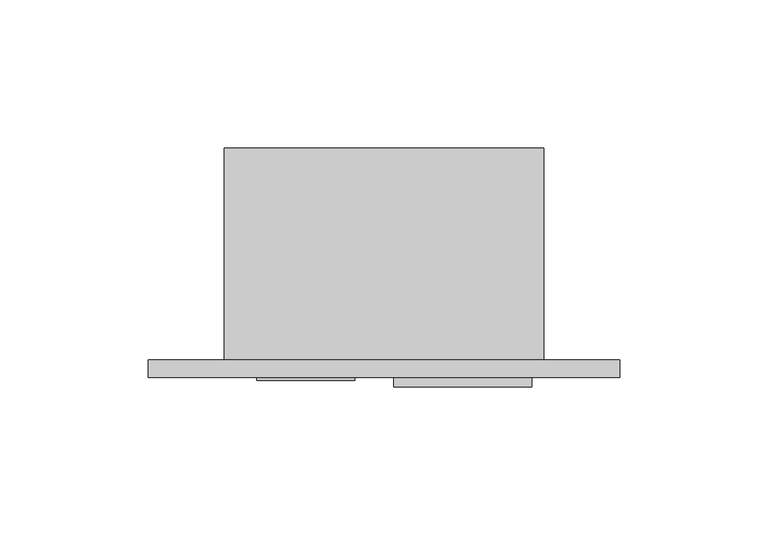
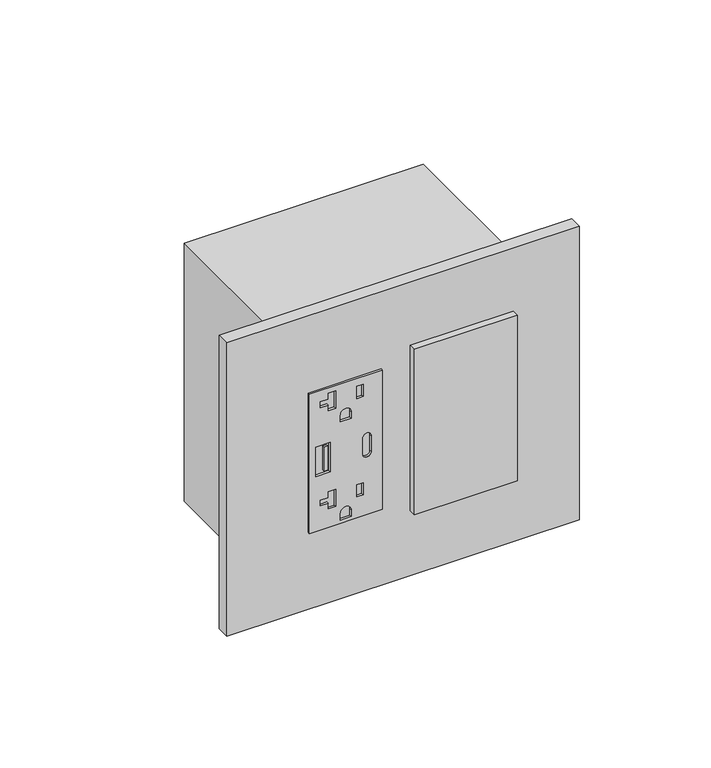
"""IFC4 building model written with IfcOpenShell, lengths in millimetres: proxy geometry, Electrical-Teknion-EPDMD_Vertical_Power_Data_Double-R2019 : PD Vertical Module - Double 20 Amp USB (A+C)."""

import ifcopenshell
import ifcopenshell.guid

model = None  # the IFC model being written
_history = None  # IfcOwnerHistory: only IFC2X3 demands one
_inside = {}  # id of a spatial element -> (the spatial element, [elements in it])
_under = {}  # id of a project, library or spatial element -> (it, [spatial elements below it])
_declared = {}  # id of a project -> (the project, [libraries it declares])
_typed = {}  # id of a type object -> (the type object, [elements of that type])
_made_of = {}  # id of a material, layer set ... -> (it, [elements and type objects made of it])


def new_model(schema):
    """Start an empty IFC model of exactly this schema.

    Asked for "IFC4X3", IfcOpenShell would pick the latest addendum, in which some entities
    have other attributes; the version numbers below select the first issue.
    IFC2X3 requires an IfcOwnerHistory on every rooted entity: one is made here for all.
    """
    global model, _history
    if schema == "IFC4X3":
        model = ifcopenshell.file(schema_version=(4, 3, 0, 0))
    else:
        model = ifcopenshell.file(schema=schema)
    _inside.clear()
    _under.clear()
    _declared.clear()
    _typed.clear()
    _made_of.clear()
    _history = None
    if model.schema == "IFC2X3":
        org = make("IfcOrganization", Name="unknown")
        user = make(
            "IfcPersonAndOrganization",
            ThePerson=make("IfcPerson", FamilyName="unknown"),
            TheOrganization=org,
        )
        app = make(
            "IfcApplication",
            ApplicationDeveloper=org,
            Version="unknown",
            ApplicationFullName="unknown",
            ApplicationIdentifier="unknown",
        )
        _history = make(
            "IfcOwnerHistory",
            OwningUser=user,
            OwningApplication=app,
            ChangeAction="ADDED",
            CreationDate=0,
        )
    return model


def make(cls, **values):
    """One entity of the class cls with the attributes given. An attribute that is None is left unset."""
    return model.create_entity(
        cls, **{name: value for name, value in values.items() if value is not None}
    )


def rooted(cls, **values):
    """An entity with a GlobalId (a new one), such as an element, a storey or a relation."""
    return make(cls, GlobalId=ifcopenshell.guid.new(), OwnerHistory=_history, **values)


def si_unit(unit_type, name, prefix=None):
    """IfcSIUnit, for example si_unit("LENGTHUNIT", "METRE", prefix="MILLI")."""
    return make("IfcSIUnit", UnitType=unit_type, Prefix=prefix, Name=name)


def assignment(units):
    """IfcUnitAssignment: the units of a project."""
    return None if units is None else make("IfcUnitAssignment", Units=units)


def point(xyz):
    """IfcCartesianPoint."""
    return None if xyz is None else make("IfcCartesianPoint", Coordinates=xyz)


def direction(xyz):
    """IfcDirection."""
    return None if xyz is None else make("IfcDirection", DirectionRatios=xyz)


def frame(location, z_axis=None, x_axis=None):
    """IfcAxis2Placement3D, a coordinate frame: its origin and axes. An axis left out is left unset."""
    return make(
        "IfcAxis2Placement3D",
        Location=point(location),
        Axis=direction(z_axis),
        RefDirection=direction(x_axis),
    )


def frame_2d(location, x_axis=None):
    """IfcAxis2Placement2D, a coordinate frame in the plane: its origin and x axis."""
    return make(
        "IfcAxis2Placement2D", Location=point(location), RefDirection=direction(x_axis)
    )


def origin():
    """The frame at (0, 0, 0) with its axes left unset."""
    return frame((0.0, 0.0, 0.0))


def place(relative_to, where):
    """IfcLocalPlacement: puts the frame where relative to a parent placement (None: the world)."""
    return make(
        "IfcLocalPlacement", PlacementRelTo=relative_to, RelativePlacement=where
    )


def context(
    kind, dimensions, precision=None, world=None, true_north=None, identifier=None
):
    """IfcGeometricRepresentationContext, for example the 3D "Model" context."""
    return make(
        "IfcGeometricRepresentationContext",
        ContextIdentifier=identifier,
        ContextType=kind,
        CoordinateSpaceDimension=dimensions,
        Precision=precision,
        WorldCoordinateSystem=world,
        TrueNorth=true_north,
    )


def project(units=None, contexts=None):
    """IfcProject with its units and contexts."""
    return rooted(
        "IfcProject",
        Name="project",
        RepresentationContexts=contexts,
        UnitsInContext=assignment(units),
    )


def spatial(cls, under=None, at=None, **own):
    """A site, building, storey or space (cls), placed at a placement, below another one or the project."""
    s = rooted(cls, ObjectPlacement=at, **own)
    if under is not None:
        _under.setdefault(under.id(), (under, []))[1].append(s)
    return s


def polyline(points):
    """IfcPolyline through the points."""
    return make("IfcPolyline", Points=[point(p) for p in points])


def circle_curve(where, radius):
    """IfcCircle in the frame where."""
    return make("IfcCircle", Position=where, Radius=radius)


def trimmed(basis, trim1, trim2, sense, master):
    """IfcTrimmedCurve: the piece of a basis curve between two trims."""
    return make(
        "IfcTrimmedCurve",
        BasisCurve=basis,
        Trim1=trim1,
        Trim2=trim2,
        SenseAgreement=sense,
        MasterRepresentation=master,
    )


def segment(curve, same_sense, transition):
    """IfcCompositeCurveSegment."""
    return make(
        "IfcCompositeCurveSegment",
        Transition=transition,
        SameSense=same_sense,
        ParentCurve=curve,
    )


def composite_curve(segments, self_intersect=None):
    """IfcCompositeCurve: segments joined end to end."""
    return make("IfcCompositeCurve", Segments=segments, SelfIntersect=self_intersect)


def outline(outer, holes=None, kind="AREA"):
    """IfcArbitraryClosedProfileDef: a profile drawn as a closed curve; with holes, ...WithVoids."""
    if holes is None:
        return make("IfcArbitraryClosedProfileDef", ProfileType=kind, OuterCurve=outer)
    return make(
        "IfcArbitraryProfileDefWithVoids",
        ProfileType=kind,
        OuterCurve=outer,
        InnerCurves=holes,
    )


def extrude(swept, where, along, depth):
    """IfcExtrudedAreaSolid: the profile swept, set in the frame where, extruded along a direction by depth."""
    return make(
        "IfcExtrudedAreaSolid",
        SweptArea=swept,
        Position=where,
        ExtrudedDirection=direction(along),
        Depth=depth,
    )


def shape(context_of_items, identifier, shape_type, items):
    """IfcShapeRepresentation: the items that make up one representation, for example the "Body"."""
    return make(
        "IfcShapeRepresentation",
        ContextOfItems=context_of_items,
        RepresentationIdentifier=identifier,
        RepresentationType=shape_type,
        Items=items,
    )


def source(mapping_origin, context_of_items, identifier, shape_type, items):
    """IfcRepresentationMap: a shape defined once, which mapped items show again and again."""
    return make(
        "IfcRepresentationMap",
        MappingOrigin=mapping_origin,
        MappedRepresentation=shape(context_of_items, identifier, shape_type, items),
    )


def transform(
    local_origin,
    x_axis=None,
    y_axis=None,
    z_axis=None,
    scale=None,
    scale2=None,
    scale3=None,
    uniform=True,
):
    """IfcCartesianTransformationOperator3D, or its non-uniform kind. x_axis, y_axis, z_axis: its Axis1, 2, 3."""
    if uniform:
        return make(
            "IfcCartesianTransformationOperator3D",
            Axis1=direction(x_axis),
            Axis2=direction(y_axis),
            LocalOrigin=point(local_origin),
            Scale=scale,
            Axis3=direction(z_axis),
        )
    return make(
        "IfcCartesianTransformationOperator3DnonUniform",
        Axis1=direction(x_axis),
        Axis2=direction(y_axis),
        LocalOrigin=point(local_origin),
        Scale=scale,
        Axis3=direction(z_axis),
        Scale2=scale2,
        Scale3=scale3,
    )


def mapped(mapping_source, mapping_target):
    """IfcMappedItem: shows the shape of a source again, moved by a transform."""
    return make(
        "IfcMappedItem", MappingSource=mapping_source, MappingTarget=mapping_target
    )


def made_of(thing, what):
    """Note that an element or type object is made of a material, layer set ...; save() writes the relation."""
    if what is not None:
        _made_of.setdefault(what.id(), (what, []))[1].append(thing)
    return thing


def element(
    cls,
    number,
    at=None,
    inside=None,
    cuts=None,
    type_object=None,
    material=None,
    context=None,
    identifier="Body",
    shape_type=None,
    held_by="IfcProductDefinitionShape",
    body=None,
    shapes=None,
    **own,
):
    """One element of the class cls, such as IfcWall. Its Tag is "e" and its number.

    at: its placement. inside: the storey or other place that contains it. cuts: it is an
    opening in that element (IfcRelVoidsElement). A single representation is given by context,
    identifier, shape_type and body (its items); several are given by shapes. held_by: the class
    of the entity that holds the representations. save() writes the other relations.
    """
    e = rooted(cls, Tag="e%d" % number, ObjectPlacement=at, **own)
    if body is not None:
        shapes = [shape(context, identifier, shape_type, body)]
    if shapes is not None:
        e.Representation = make(held_by, Representations=shapes)
    if inside is not None:
        _inside.setdefault(inside.id(), (inside, []))[1].append(e)
    if cuts is not None:
        rooted(
            "IfcRelVoidsElement", RelatingBuildingElement=cuts, RelatedOpeningElement=e
        )
    if type_object is not None:
        _typed.setdefault(type_object.id(), (type_object, []))[1].append(e)
    return made_of(e, material)


def aggregate(whole, parts):
    """IfcRelAggregates: a whole, such as a stair, and the parts it consists of."""
    return rooted("IfcRelAggregates", RelatingObject=whole, RelatedObjects=parts)


def save(model, path):
    """Write the relations noted so far, then the file.

    IfcRelAggregates (storeys below a building ...), IfcRelContainedInSpatialStructure (elements
    in a storey), IfcRelDefinesByType, IfcRelAssociatesMaterial and IfcRelDeclares: one each for
    every whole, place, type object, material and project.
    """
    for whole, parts in _under.values():
        aggregate(whole, parts)
    for where, things in _inside.values():
        rooted(
            "IfcRelContainedInSpatialStructure",
            RelatedElements=things,
            RelatingStructure=where,
        )
    for kind, things in _typed.values():
        rooted("IfcRelDefinesByType", RelatedObjects=things, RelatingType=kind)
    for what, things in _made_of.values():
        rooted("IfcRelAssociatesMaterial", RelatedObjects=things, RelatingMaterial=what)
    for by, libraries in _declared.values():
        rooted("IfcRelDeclares", RelatingContext=by, RelatedDefinitions=libraries)
    model.write(path)


def electrical_fixtures_7935cbd9(model_context):
    return source(origin(), model_context, "Body", "SweptSolid", [
        extrude(outline(polyline([(490.3844229, 11.0998), (423.8364229, 11.0998), (423.8364229, 44.0944), (490.3844229, 44.0944), (490.3844229, 11.0998)]), holes=[polyline([(464.1589229, 14.0236066), (464.1589229, 20.5246617), (450.0619229, 20.5246617), (450.0619229, 14.0236066), (464.1589229, 14.0236066)]), composite_curve([segment(trimmed(circle_curve(frame_2d((460.8950229, 37.1348)), 1.905), [point((460.8950229, 35.2298))], [point((460.8950229, 39.0398))], True, "CARTESIAN"), True, "CONTINUOUS"), segment(polyline([(460.8950229, 39.0398), (453.3258229, 39.0398)]), True, "CONTINUOUS"), segment(trimmed(circle_curve(frame_2d((453.3258229, 37.1348)), 1.905), [point((453.3258229, 39.0398))], [point((453.3258229, 35.2298))], True, "CARTESIAN"), True, "CONTINUOUS"), segment(polyline([(453.3258229, 35.2298), (460.8950229, 35.2298)]), True, "CONTINUOUS")], self_intersect=False), composite_curve([segment(polyline([(425.3604229, 30.0609), (425.3604229, 25.1333), (428.4592229, 25.1333)]), True, "CONTINUOUS"), segment(trimmed(circle_curve(frame_2d((428.4592229, 27.5971)), 2.4638), [point((428.4592229, 25.1333))], [point((428.4592229, 30.0609))], True, "CARTESIAN"), True, "CONTINUOUS"), segment(polyline([(428.4592229, 30.0609), (425.3604229, 30.0609)]), True, "CONTINUOUS")], self_intersect=False), polyline([(440.9306229, 22.9616), (432.631589, 22.9616), (432.631589, 19.6342), (435.3147869, 19.6342), (435.3147869, 16.1036), (438.0524041, 16.1036), (438.0524041, 19.6342), (440.9306229, 19.6342), (440.9306229, 22.9616)]), composite_curve([segment(polyline([(472.3504229, 25.1333), (475.4492229, 25.1333)]), True, "CONTINUOUS"), segment(trimmed(circle_curve(frame_2d((475.4492229, 27.5971)), 2.4638), [point((475.4492229, 25.1333))], [point((475.4492229, 30.0609))], True, "CARTESIAN"), True, "CONTINUOUS"), segment(polyline([(475.4492229, 30.0609), (472.3504229, 30.0609), (472.3504229, 25.1333)]), True, "CONTINUOUS")], self_intersect=False), polyline([(480.8678878, 32.4358), (486.6910404, 32.4358), (486.6910404, 35.41014), (480.8678878, 35.41014), (480.8678878, 32.4358)]), polyline([(433.8778878, 32.4358), (439.7010404, 32.4358), (439.7010404, 35.41014), (433.8778878, 35.41014), (433.8778878, 32.4358)]), polyline([(487.9206229, 22.9616), (479.621589, 22.9616), (479.621589, 19.6342), (482.3047869, 19.6342), (482.3047869, 16.1036), (485.0424041, 16.1036), (485.0424041, 19.6342), (487.9206229, 19.6342), (487.9206229, 22.9616)])]), frame((0.0, -6.9294746, 0.0), z_axis=(0.0, 1.0, 0.0), x_axis=(0.0, 0.0, 1.0)), (0.0, 0.0, 1.0), 1.0366746),
        extrude(outline(polyline([(19.314835, -6.9294746), (17.7939058, -6.9294746), (17.7939058, -5.8928), (19.314835, -5.8928), (19.314835, -6.9294746)])), frame((0.0, 0.0, 451.3845775), z_axis=(0.0, 0.0, 1.0), x_axis=(1.0, 0.0, 0.0)), (0.0, 0.0, 1.0), 11.4436352),
        extrude(outline(polyline([(57.3278, -5.8928), (103.8606, -5.8928), (103.8606, -9.0678), (57.3278, -9.0678), (57.3278, -5.8928)])), frame((0.0, 0.0, 417.9026971), z_axis=(0.0, 0.0, 1.0), x_axis=(1.0, 0.0, 0.0)), (0.0, 0.0, 1.0), 79.0448),
        extrude(outline(polyline([(-25.6794, 0.0), (133.7056, 0.0), (133.7056, -5.8928), (-25.6794, -5.8928), (-25.6794, 0.0)])), frame((0.0, 0.0, 386.9302229), z_axis=(0.0, 0.0, 1.0), x_axis=(1.0, 0.0, 0.0)), (0.0, 0.0, 1.0), 140.3604),
        extrude(outline(polyline([(108.0262, 0.0), (0.0, 0.0), (0.0, 71.7296), (108.0262, 71.7296), (108.0262, 0.0)])), frame((0.0, 0.0, 395.3630229), z_axis=(0.0, 0.0, 1.0), x_axis=(1.0, 0.0, 0.0)), (0.0, 0.0, 1.0), 123.4948),
    ])


if __name__ == "__main__":
    model = new_model("IFC4")
    model_context = context("Model", 3, world=origin())
    ifc_project = project(units=[si_unit("LENGTHUNIT", "METRE", prefix="MILLI")], contexts=[model_context])
    site = spatial("IfcSite", under=ifc_project)
    building = spatial("IfcBuilding", under=site)
    placement = place(None, origin())
    electrical_fixtures_shape = electrical_fixtures_7935cbd9(model_context)
    element("IfcBuildingElementProxy", 1, Name="Electrical-Teknion-EPDMD_Vertical_Power_Data_Double-R2019 : PD Vertical Module - Double 20 Amp USB (A+C)", ObjectType="Electrical-Teknion-EPDMD_Vertical_Power_Data_Double-R2019 : PD Vertical Module - Double 20 Amp USB (A+C)", at=placement, inside=building, context=model_context, shape_type="MappedRepresentation", body=[
        mapped(electrical_fixtures_shape, transform((0.0, 0.0, 0.0), x_axis=(1.0, 0.0, 0.0), y_axis=(0.0, 1.0, 0.0), z_axis=(0.0, 0.0, 1.0))),
    ])
    save(model, "model.ifc")
